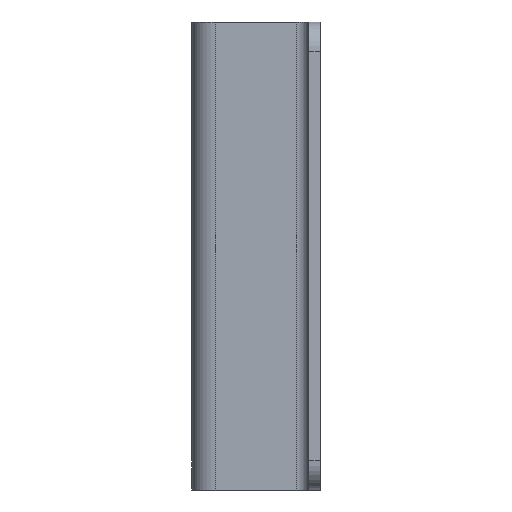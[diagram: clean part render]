
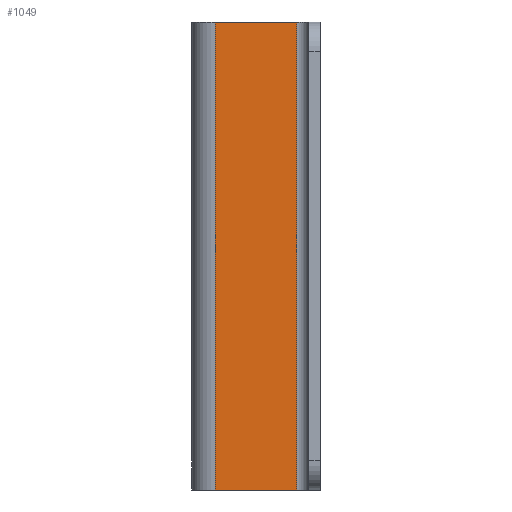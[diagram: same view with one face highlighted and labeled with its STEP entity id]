
A CAD part, left-side view. The second image highlights one B-rep face of the part: STEP entity #1049.
In plain terms, the highlighted planar face has unit normal (-1, 0, 0).
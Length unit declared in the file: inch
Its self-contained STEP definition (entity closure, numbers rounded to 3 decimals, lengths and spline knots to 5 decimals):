
#51=PLANE('',#1161);
#99=FACE_OUTER_BOUND('',#183,.T.);
#183=EDGE_LOOP('',(#837,#838,#839,#840));
#267=LINE('',#1712,#359);
#272=LINE('',#1723,#364);
#277=LINE('',#1731,#369);
#278=LINE('',#1732,#370);
#359=VECTOR('',#1379,39.37008);
#364=VECTOR('',#1386,39.37008);
#369=VECTOR('',#1395,39.37008);
#370=VECTOR('',#1396,39.37008);
#525=VERTEX_POINT('',#1710);
#526=VERTEX_POINT('',#1711);
#530=VERTEX_POINT('',#1720);
#531=VERTEX_POINT('',#1722);
#631=EDGE_CURVE('',#525,#526,#267,.T.);
#636=EDGE_CURVE('',#530,#531,#272,.T.);
#641=EDGE_CURVE('',#531,#526,#277,.T.);
#642=EDGE_CURVE('',#525,#530,#278,.T.);
#837=ORIENTED_EDGE('',*,*,#641,.F.);
#838=ORIENTED_EDGE('',*,*,#636,.F.);
#839=ORIENTED_EDGE('',*,*,#642,.F.);
#840=ORIENTED_EDGE('',*,*,#631,.T.);
#1049=ADVANCED_FACE('',(#99),#51,.T.);
#1161=AXIS2_PLACEMENT_3D('',#1730,#1393,#1394);
#1379=DIRECTION('',(0.,-1.,0.));
#1386=DIRECTION('',(0.,-1.,0.));
#1393=DIRECTION('center_axis',(-1.,0.,0.));
#1394=DIRECTION('ref_axis',(0.,0.,1.));
#1395=DIRECTION('',(0.,0.,-1.));
#1396=DIRECTION('',(0.,0.,1.));
#1710=CARTESIAN_POINT('',(-1.265,-0.1,-1.));
#1711=CARTESIAN_POINT('',(-1.265,-0.45,-1.));
#1712=CARTESIAN_POINT('',(-1.265,0.,-1.));
#1720=CARTESIAN_POINT('',(-1.265,-0.1,1.));
#1722=CARTESIAN_POINT('',(-1.265,-0.45,1.));
#1723=CARTESIAN_POINT('',(-1.265,-0.55,1.));
#1730=CARTESIAN_POINT('Origin',(-1.265,0.,-1.));
#1731=CARTESIAN_POINT('',(-1.265,-0.45,-1.));
#1732=CARTESIAN_POINT('',(-1.265,-0.1,1.));
